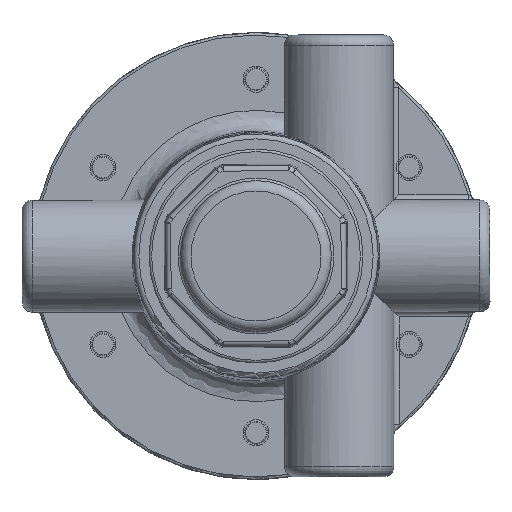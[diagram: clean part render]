
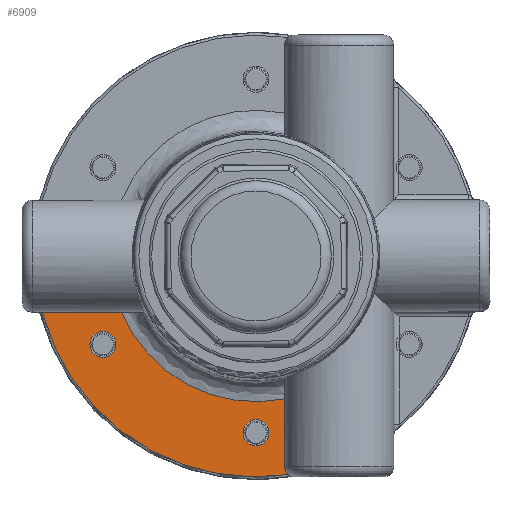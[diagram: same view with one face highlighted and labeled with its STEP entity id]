
A CAD part, front view. The second image highlights one B-rep face of the part: STEP entity #6909.
In plain terms, the highlighted planar face has unit normal (0, -1, 0).
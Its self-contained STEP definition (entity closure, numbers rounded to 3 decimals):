
#3670=CARTESIAN_POINT('',(-28.195,64.0,-19.165));
#3671=VERTEX_POINT('',#3670);
#3672=CARTESIAN_POINT('',(-29.445,64.0,-17.));
#3673=DIRECTION('',(0.,1.,0.));
#3674=DIRECTION('',(-0.5,0.,0.866));
#3675=AXIS2_PLACEMENT_3D('',#3672,#3673,#3674);
#3676=CIRCLE('',#3675,2.5);
#3677=EDGE_CURVE('',#3671,#3671,#3676,.T.);
#3858=CARTESIAN_POINT('',(2.5,64.0,-34.));
#3859=VERTEX_POINT('',#3858);
#3860=CARTESIAN_POINT('',(0.,64.0,-34.));
#3861=DIRECTION('',(0.0,1.0,0.0));
#3862=DIRECTION('',(-1.0,0.0,0.0));
#3863=AXIS2_PLACEMENT_3D('',#3860,#3861,#3862);
#3864=CIRCLE('',#3863,2.5);
#3865=EDGE_CURVE('',#3859,#3859,#3864,.T.);
#6009=CARTESIAN_POINT('',(6.268,64.0,-42.035));
#6010=VERTEX_POINT('',#6009);
#6011=CARTESIAN_POINT('',(5.541,64.0,-40.494));
#6012=VERTEX_POINT('',#6011);
#6013=CARTESIAN_POINT('',(7.541,64.0,-40.492));
#6014=DIRECTION('',(0.,1.,0.));
#6015=DIRECTION('',(-0.706,0.,-0.708));
#6016=AXIS2_PLACEMENT_3D('',#6013,#6014,#6015);
#6017=CIRCLE('',#6016,2.);
#6018=EDGE_CURVE('',#6010,#6012,#6017,.T.);
#6165=CARTESIAN_POINT('',(5.528,64.0,-27.474));
#6166=VERTEX_POINT('',#6165);
#6201=CARTESIAN_POINT('',(5.541,64.0,-40.494));
#6202=DIRECTION('',(-0.001,0.0,1.));
#6203=VECTOR('',#6202,13.02);
#6204=LINE('',#6201,#6203);
#6205=EDGE_CURVE('',#6012,#6166,#6204,.T.);
#6779=CARTESIAN_POINT('',(-25.87,64.0,-10.776));
#6780=VERTEX_POINT('',#6779);
#6815=CARTESIAN_POINT('',(0.,64.0,0.));
#6816=DIRECTION('',(0.0,-1.0,0.0));
#6817=DIRECTION('',(-1.0,0.0,0.0));
#6818=AXIS2_PLACEMENT_3D('',#6815,#6816,#6817);
#6819=CIRCLE('',#6818,28.025);
#6820=EDGE_CURVE('',#6780,#6166,#6819,.T.);
#6853=CARTESIAN_POINT('',(-41.107,64.0,-10.791));
#6854=VERTEX_POINT('',#6853);
#6855=CARTESIAN_POINT('',(0.,64.0,0.));
#6856=DIRECTION('',(0.0,1.0,0.0));
#6857=DIRECTION('',(-1.0,0.0,0.0));
#6858=AXIS2_PLACEMENT_3D('',#6855,#6856,#6857);
#6859=CIRCLE('',#6858,42.5);
#6860=EDGE_CURVE('',#6010,#6854,#6859,.T.);
#6886=CARTESIAN_POINT('',(0.,64.0,0.));
#6887=DIRECTION('',(0.0,-1.0,0.0));
#6888=DIRECTION('',(0.0,0.0,-1.0));
#6889=AXIS2_PLACEMENT_3D('',#6886,#6887,#6888);
#6890=PLANE('',#6889);
#6891=ORIENTED_EDGE('',*,*,#6205,.T.);
#6892=ORIENTED_EDGE('',*,*,#6820,.F.);
#6893=CARTESIAN_POINT('',(-25.87,64.0,-10.776));
#6894=DIRECTION('',(-1.,0.0,-0.001));
#6895=VECTOR('',#6894,15.237);
#6896=LINE('',#6893,#6895);
#6897=EDGE_CURVE('',#6780,#6854,#6896,.T.);
#6898=ORIENTED_EDGE('',*,*,#6897,.T.);
#6899=ORIENTED_EDGE('',*,*,#6860,.F.);
#6900=ORIENTED_EDGE('',*,*,#6018,.T.);
#6901=EDGE_LOOP('',(#6891,#6892,#6898,#6899,#6900));
#6902=FACE_OUTER_BOUND('',#6901,.T.);
#6903=ORIENTED_EDGE('',*,*,#3677,.T.);
#6904=EDGE_LOOP('',(#6903));
#6905=FACE_BOUND('',#6904,.T.);
#6906=ORIENTED_EDGE('',*,*,#3865,.T.);
#6907=EDGE_LOOP('',(#6906));
#6908=FACE_BOUND('',#6907,.T.);
#6909=ADVANCED_FACE('',(#6902,#6905,#6908),#6890,.T.);
